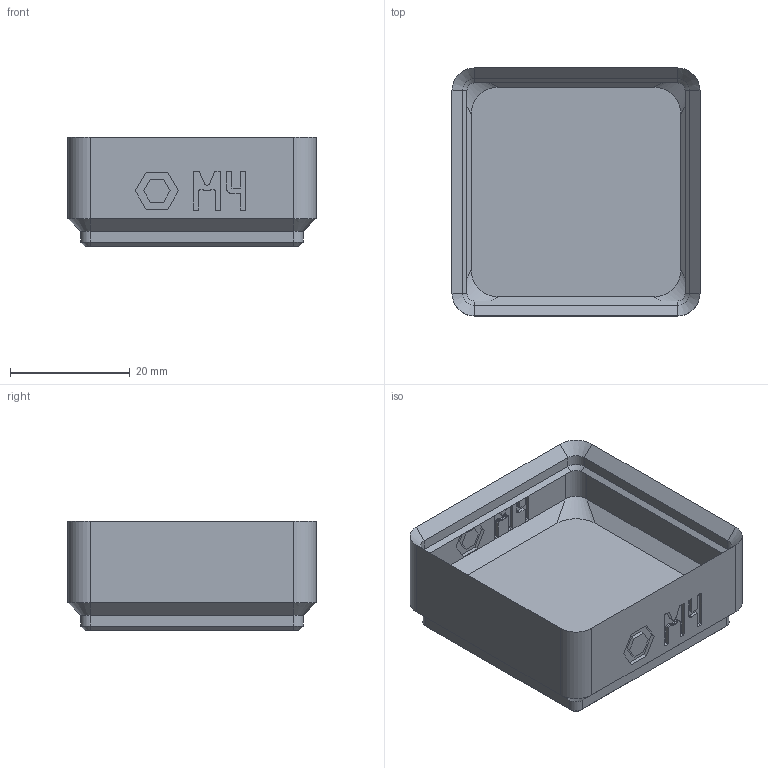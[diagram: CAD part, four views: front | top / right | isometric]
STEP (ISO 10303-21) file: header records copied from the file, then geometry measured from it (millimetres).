
FILE_DESCRIPTION(('Open CASCADE Model'),'2;1');
FILE_NAME('bin_nut_m4','2026-11-16T17:22:19',('Author'),('Open CASCADE') ,'Open CASCADE STEP processor 8.0','build123d','Unknown');
FILE_SCHEMA(('AUTOMOTIVE_DESIGN { 1 0 10303 214 1 1 1 1 }'));
Length unit declared in the file: millimetre
Products named in the file (1): bin_nut_m4
Bounding box: 41.5 x 41.5 x 18.4 mm (x, y, z)
Volume: 10976.4 mm3; surface area: 8321.7 mm2
Topology: 1 solids, 1 shells, 507 faces, 1408 edges, 920 vertices
Faces by surface type: plane 459, cylinder 24, cone 16, bspline 8
Full cylindrical faces by diameter (mm): 3.2 x4, 6.5 x4
Entity records: 33256 total; most frequent: CARTESIAN_POINT 6736, DIRECTION 4300, LINE 3152, VECTOR 3152, ORIENTED_EDGE 2816, PCURVE 2816, DEFINITIONAL_REPRESENTATION 2816, EDGE_CURVE 1408
